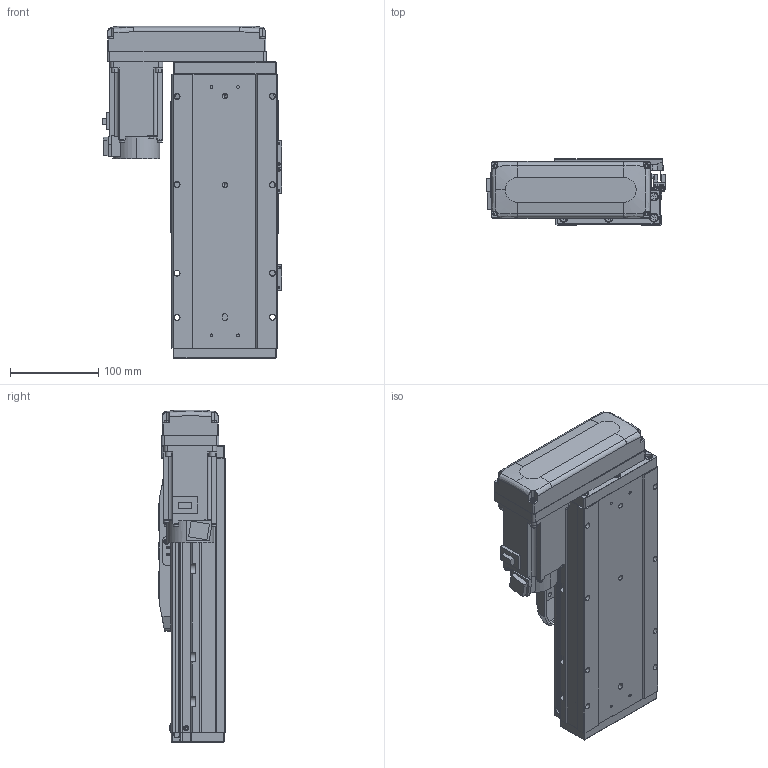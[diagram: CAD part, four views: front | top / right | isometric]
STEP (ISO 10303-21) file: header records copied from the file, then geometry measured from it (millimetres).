
FILE_DESCRIPTION (( 'STEP AP203' ), '1' );
FILE_NAME ('GTH12-100-BR-M40-C4.step', '2023-07-05T00:04:37', ( '微软用户' ), ( '微软中国' ), 'SwSTEP 2.0', 'SolidWorks 2020', '' );
FILE_SCHEMA (( 'CONFIG_CONTROL_DESIGN' ));
Length unit declared in the file: millimetre
Products named in the file (18): GBT 70.1-M5×16; BTH-M3X5X6; GTH120-001_100; GBT 70.3-M3℅8; hg-kn43j_-s100_; GTH120-003; GTH80-022; CTHA86-033_M40B; GTH120-006; GTH80-028; GTH120-027-1_GTH120-027-2; GTH120-004; GTH50-023; GTH12-100-BR-M40-C4; GTH120-013; GTH50-024; GBT 70.1-M3℅6; GBT96.1-2002 3×0.8
Assembly tree (59 placements, depth 2):
  GTH12-100-BR-M40-C4
    GTH120-001_100
    GTH120-003
    GTH120-006
    GTH120-004
    GTH120-013
    GBT 70.1-M3℅6  x14
    GBT 70.1-M5×16  x10
    GBT 70.3-M3℅8  x4
    GTH80-022
    GTH80-028  x2
    GTH50-023  x3
    GTH50-024  x3
    GBT96.1-2002 3×0.8  x6
    BTH-M3X5X6  x8
    hg-kn43j_-s100_
    CTHA86-033_M40B
    GTH120-027-1_GTH120-027-2
Bounding box: 203.5 x 76 x 375.5 mm (x, y, z)
Volume: 3301029.9 mm3; surface area: 404694.1 mm2
Topology: 61 solids, 61 shells, 2336 faces, 5411 edges, 3317 vertices
Faces by surface type: plane 1222, cylinder 654, cone 272, torus 174, sphere 8, bspline 6
Entity records: 42229 total; most frequent: CARTESIAN_POINT 7150, DIRECTION 6939, ORIENTED_EDGE 6432, EDGE_CURVE 3216, AXIS2_PLACEMENT_3D 2427, VECTOR 2085, LINE 2085, VERTEX_POINT 2038
